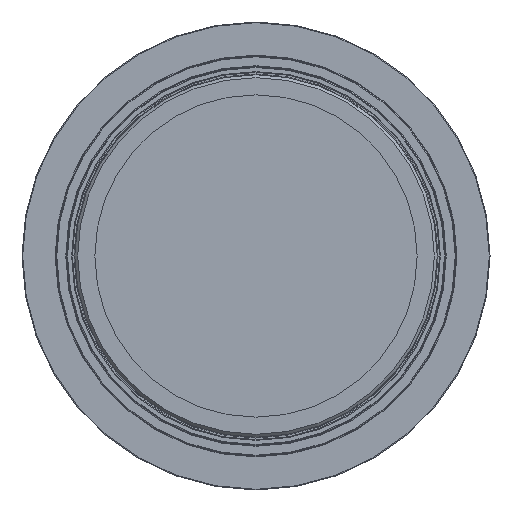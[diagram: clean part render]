
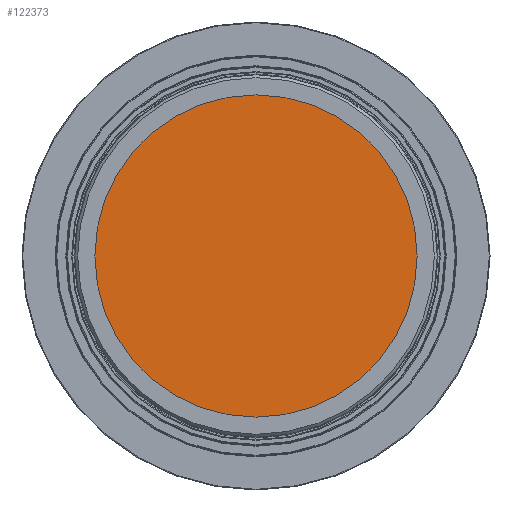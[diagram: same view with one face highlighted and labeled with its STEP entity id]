
A CAD part, front view. The second image highlights one B-rep face of the part: STEP entity #122373.
In plain terms, the highlighted planar face has unit normal (0, -1, 0).
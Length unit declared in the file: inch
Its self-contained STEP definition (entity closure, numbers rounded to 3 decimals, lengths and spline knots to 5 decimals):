
#122092=CARTESIAN_POINT('',(0.0,-0.04134,-2.21004));
#122093=VERTEX_POINT('',#122092);
#122094=CARTESIAN_POINT('',(0.0,-0.04134,0.));
#122095=DIRECTION('',(0.0,1.0,0.0));
#122096=DIRECTION('',(0.0,0.0,1.0));
#122097=AXIS2_PLACEMENT_3D('',#122094,#122095,#122096);
#122098=CIRCLE('',#122097,2.21004);
#122099=EDGE_CURVE('',#122093,#122093,#122098,.T.);
#122365=CARTESIAN_POINT('',(0.0,-0.04134,0.0));
#122366=DIRECTION('',(0.0,1.0,0.0));
#122367=DIRECTION('',(0.0,0.0,1.0));
#122368=AXIS2_PLACEMENT_3D('',#122365,#122366,#122367);
#122369=PLANE('',#122368);
#122370=ORIENTED_EDGE('',*,*,#122099,.F.);
#122371=EDGE_LOOP('',(#122370));
#122372=FACE_OUTER_BOUND('',#122371,.T.);
#122373=ADVANCED_FACE('',(#122372),#122369,.F.);
